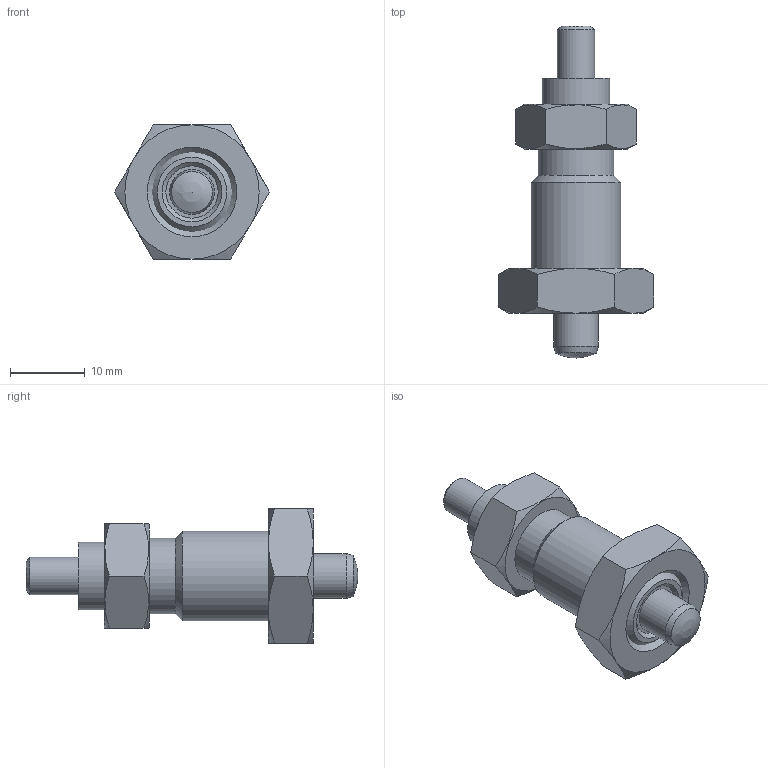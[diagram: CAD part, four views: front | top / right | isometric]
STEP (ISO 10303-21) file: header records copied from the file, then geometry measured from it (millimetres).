
FILE_DESCRIPTION( ( 'STEP AP203' ), '1' );
FILE_NAME( 'C:/Temp/Ganter_Step_05_03_2020/data/3_1/gn817/gn817_ni-rastbolzen/Stainless Steel-Indexing plunger GN 817-6-6-GK-NI (deactivated-0).stp', '2020-03-12T09:00:01', ( 'License CC BY-ND 4.0' ), ( 'CADENAS' ), ' ', 'PARTsolutions', ' ' );
FILE_SCHEMA( ( 'CONFIG_CONTROL_DESIGN' ) );
Length unit declared in the file: millimetre
Products named in the file (5): Stainless Steel-Indexing plunger GN 817-6-6-GK-NI (deactivated-0); _Stainless steel-Indexing plunger GN 817-6-6-GK-NI (deactivated-0)-d; _Stainless steel-Indexing plunger GN 817-6-6-B-NI-2; _Stainless Steel-Indexing plunger GN 817-6-6-G-NI-6; _Stainless steel-Indexing plunger GN 817-6-6-BK-NI (deactivated-0)-3
Assembly tree (4 placements, depth 2):
  Stainless Steel-Indexing plunger GN 817-6-6-GK-NI (deactivated-0)
    _Stainless steel-Indexing plunger GN 817-6-6-GK-NI (deactivated-0)-d
    _Stainless steel-Indexing plunger GN 817-6-6-B-NI-2
    _Stainless Steel-Indexing plunger GN 817-6-6-G-NI-6
    _Stainless steel-Indexing plunger GN 817-6-6-BK-NI (deactivated-0)-3
Bounding box: 20.78 x 44.5 x 18 mm (x, y, z)
Volume: 4868 mm3; surface area: 3893.7 mm2
Topology: 3 solids, 3 shells, 58 faces, 116 edges, 70 vertices
Faces by surface type: plane 23, cone 22, cylinder 10, torus 2, sphere 1
Full cylindrical faces by diameter (mm): 5 x3, 6 x1, 7 x2, 9 x1, 10.1 x1, 10.376 x1, 12 x1
Entity records: 1720 total; most frequent: CARTESIAN_POINT 483, DIRECTION 224, ORIENTED_EDGE 182, AXIS2_PLACEMENT_3D 106, EDGE_CURVE 91, EDGE_LOOP 90, FACE_OUTER_BOUND 70, VERTEX_POINT 68
